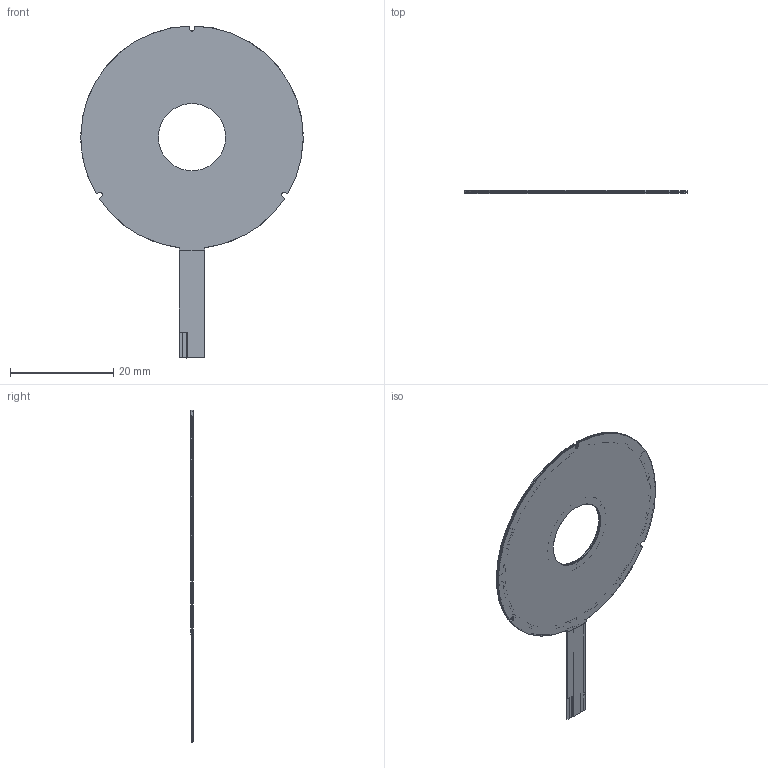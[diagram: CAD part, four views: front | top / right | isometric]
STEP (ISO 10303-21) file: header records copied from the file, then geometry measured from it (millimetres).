
FILE_DESCRIPTION (( 'STEP AP203' ), '1' );
FILE_NAME ('40-24131 Ring Sensor.STEP', '2012-10-19T22:32:25', ( '' ), ( '' ), 'SwSTEP 2.0', 'SolidWorks 2008', '' );
FILE_SCHEMA (( 'CONFIG_CONTROL_DESIGN' ));
Products named in the file (9): 40-24131 Ring Sensor; 40-24131 Rear Adhesive; 40-24131 Semiconductor; 40-24131 Spacer; 40-24131 Conductor; 40-24131 Conductor Substrate; 40-24131 Graphic Adhesive; 40-24131 Graphic
Assembly tree (8 placements, depth 3):
  40-24131 Ring Sensor
    40-24131 Conductor
      40-24131 Conductor Substrate
      40-24131 Conductor
    40-24131 Graphic Adhesive
    40-24131 Rear Adhesive
    40-24131 Semiconductor
    40-24131 Graphic
    40-24131 Spacer
Bounding box: 43 x 0.55 x 64.18 mm (x, y, z)
Volume: 644.4 mm3; surface area: 15643.4 mm2
Topology: 9 solids, 9 shells, 5679 faces, 16980 edges, 11320 vertices
Faces by surface type: plane 5418, cylinder 261
Entity records: 193911 total; most frequent: CARTESIAN_POINT 33991, ORIENTED_EDGE 33960, DIRECTION 28896, EDGE_CURVE 16980, LINE 16446, VECTOR 16446, VERTEX_POINT 11320, EDGE_LOOP 8402
